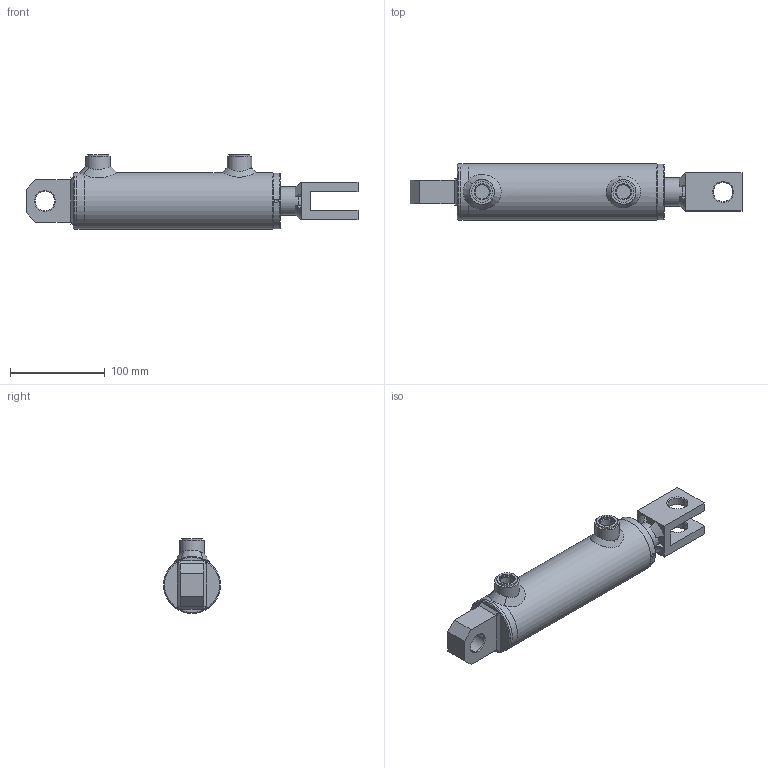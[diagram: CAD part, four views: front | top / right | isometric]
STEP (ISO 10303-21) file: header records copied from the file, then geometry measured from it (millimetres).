
FILE_DESCRIPTION( ( 'Unknown' ), '1' );
FILE_NAME( 'E:/LIBRERIA_3d/CILINDRI/HM5/HM52300100.stp', 'Unknown', ( 'Unknown' ), ( 'Unknown' ), 'PSStep 17.0.49', 'Unknown', ' ' );
FILE_SCHEMA( ( 'AUTOMOTIVE_DESIGN { 1 0 10303 214 1 1 1 1 }' ) );
Length unit declared in the file: millimetre
Products named in the file (33): CG06005030; CT00050020; STL2500100-oa6; Saldatura d'angolo 1-oa4; FTM2500100-oa5; CBSC220600; HM02300100; Saldatura con preparazione 1-oa2; Saldatura d'angolo 1-oa3; CF00050060; CBS0600000; CDA0002015; APG0600000; SBL3020100; Assem1; COF2000000; Saldatura d'angolo 1-oa0; Saldatura d'angolo 2-oa1; CFS0000020; CSCS004010
Assembly tree (20 placements, depth 4):
  Saldatura d'angolo 1-oa4
  Saldatura d'angolo 1-oa4
  Saldatura d'angolo 1-oa3
  Saldatura d'angolo 1-oa3
  Assem1
    COF2000000
    CFS0000020
    CSCS004010  x2
    HM02300100
      Saldatura con preparazione 1-oa2
      Saldatura con preparazione 1-oa2
      CF00050060
      CBS0600000
      CDA0002015
      APG0600000  x2
      SBL3020100
      CT00050020
        CT00050020
      CG06005030
        CG06005030
      STL2500100-oa6
        FTM2500100-oa5
        CBSC220600
Bounding box: 350 x 60 x 79 mm (x, y, z)
Volume: 559272.2 mm3; surface area: 189152.7 mm2
Topology: 30 solids, 30 shells, 358 faces, 757 edges, 470 vertices
Faces by surface type: plane 174, cylinder 74, cone 54, torus 38, bspline 18
Full cylindrical faces by diameter (mm): 4 x2, 4.25 x3, 5 x2, 7 x2, 14.95 x2, 16 x2, 16.6 x2, 19.4 x1, 20 x5, 20.25 x3, 22 x2, 24.5 x1, 26 x2, 30 x5, 32 x1, 33 x1, 34 x1, 38.6 x1, 40 x1, 45 x1, 45.41 x2, 48.66 x2, 49.9 x1, 50 x1, 50.3 x1, 50.5 x1, 50.6 x1, 51 x1, 52 x3, 52.5 x1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
Entity records: 14032 total; most frequent: CARTESIAN_POINT 4675, DIRECTION 1424, ORIENTED_EDGE 1060, AXIS2_PLACEMENT_3D 572, EDGE_CURVE 530, EDGE_LOOP 526, FACE_OUTER_BOUND 438, VERTEX_POINT 401
